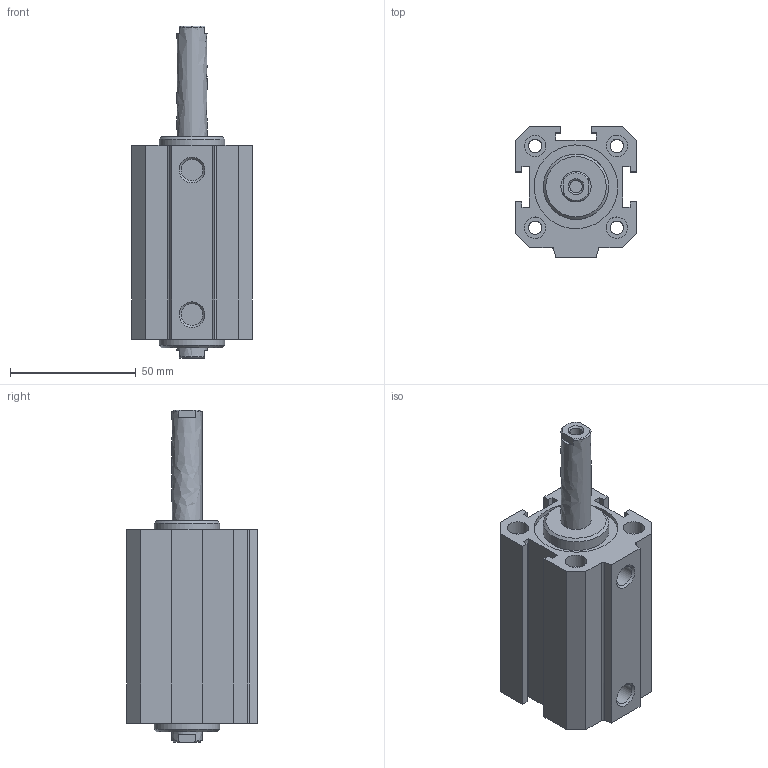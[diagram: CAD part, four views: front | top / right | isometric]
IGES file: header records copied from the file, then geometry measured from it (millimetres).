
Global section: file name: 1514_32_0040; native system: Autodesk Inventor 2014; preprocessor: unknown; author: A. Manieri; date: 20160824.113533; units: millimetre
Bounding box: 48 x 52 x 132 mm (x, y, z)
Volume: 130155.1 mm3; surface area: 45330.5 mm2
Topology: 2 solids, 2 shells, 106 faces, 276 edges, 194 vertices
Faces by surface type: bspline 106
